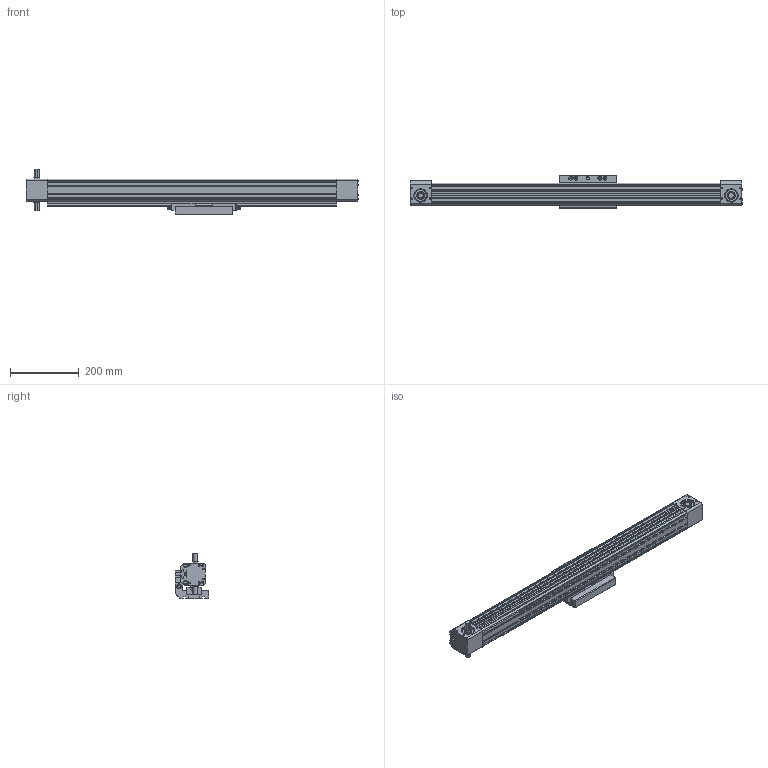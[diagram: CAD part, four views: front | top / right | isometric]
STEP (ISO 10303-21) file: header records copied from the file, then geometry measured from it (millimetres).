
FILE_DESCRIPTION((''),'2;1');
FILE_NAME('TCDH65-S600','2018-02-03T',('lenovo'),(''),'PRO/ENGINEER BY PARAMETRIC TECHNOLOGY CORPORATION, 2010280','PRO/ENGINEER BY PARAMETRIC TECHNOLOGY CORPORATION, 2010280','');
FILE_SCHEMA(('CONFIG_CONTROL_DESIGN'));
Products named in the file (1): TCDH65-S600
Bounding box: 966 x 96.5 x 132.5 mm (x, y, z)
Surface area: 806631.6 mm2 (no closed solid volume)
Topology: 0 solids, 63 shells, 2211 faces, 5903 edges, 3898 vertices
Faces by surface type: plane 1117, cylinder 810, cone 232, torus 52
Entity records: 70299 total; most frequent: CARTESIAN_POINT 13332, DIRECTION 12237, ORIENTED_EDGE 11646, EDGE_CURVE 5903, AXIS2_PLACEMENT_3D 4351, VERTEX_POINT 3898, VECTOR 3535, LINE 3535
